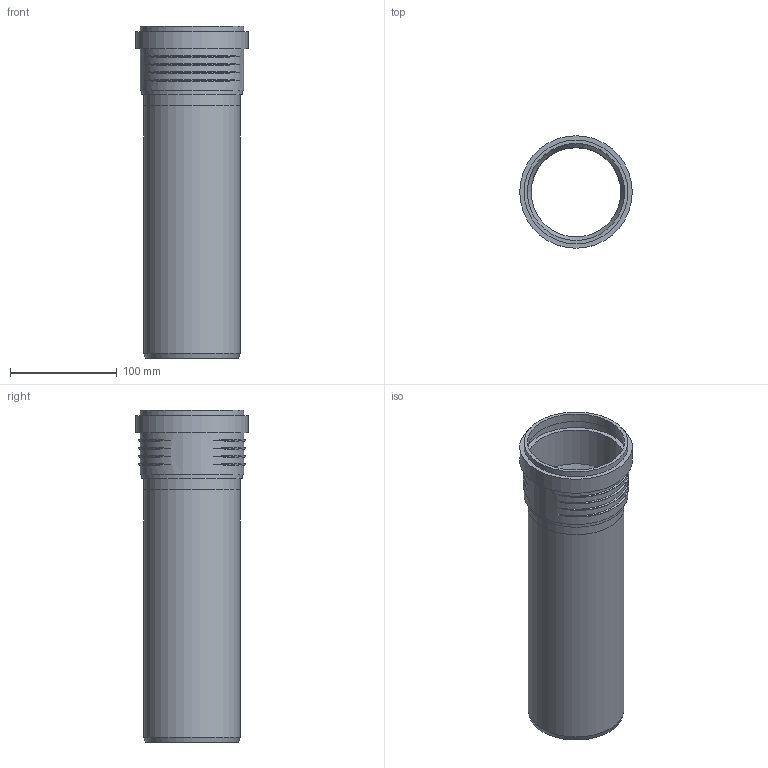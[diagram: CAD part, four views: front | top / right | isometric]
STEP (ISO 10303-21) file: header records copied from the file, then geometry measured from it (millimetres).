
FILE_DESCRIPTION(/* description */ (''),/* implementation_level */ '2;1');
FILE_NAME(/* name */ 'Z:\Geberit\Export\NewStep\390401.stp',/* time_stamp */ '2014-04-02T08:12:14+02:00',/* author */ ('ML'),/* organization */ (''),/* preprocessor_version */ 'ST-DEVELOPER v15.2',/* originating_system */ 'Autodesk Inventor 2014',/* authorisation */ '');
FILE_SCHEMA (('AUTOMOTIVE_DESIGN { 1 0 10303 214 3 1 1 }'));
Length unit declared in the file: millimetre
Products named in the file (3): 861432; 861584ohne; 390401
Bounding box: 105.4 x 105.4 x 311 mm (x, y, z)
Volume: 287381.4 mm3; surface area: 189613.2 mm2
Topology: 2 solids, 2 shells, 47 faces, 104 edges, 71 vertices
Faces by surface type: torus 24, cylinder 11, plane 10, cone 2
Full cylindrical faces by diameter (mm): 84 x2, 90.2 x2, 91 x2, 94.1 x1, 97.2 x2, 99.2 x1, 105.4 x1
Entity records: 2003 total; most frequent: CARTESIAN_POINT 962, DIRECTION 182, ORIENTED_EDGE 174, AXIS2_PLACEMENT_3D 91, EDGE_CURVE 87, EDGE_LOOP 78, VERTEX_POINT 71, STYLED_ITEM 49
